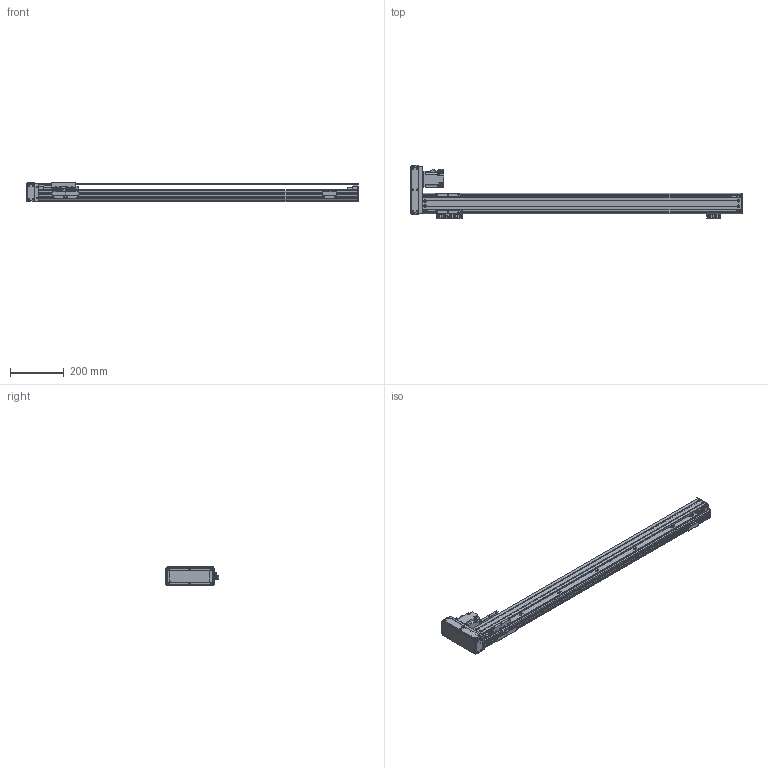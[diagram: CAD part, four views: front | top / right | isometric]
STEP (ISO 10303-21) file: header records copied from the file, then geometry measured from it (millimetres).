
FILE_DESCRIPTION(/* description */ (''),/* implementation_level */ '2;1');
FILE_NAME(/* name */ '\\192.168.0.160\disk1\HAN SHIN Master\B-설계부문\C-표준\B-2024년\BC02-표준도면\+로봇 개선표준도면\홈페이지 표준 도면\홈페이지 최종 작업 폴더\3D\HR\HR75\HR75병렬\좌병렬\HR75-L20-N1B-1000-R10.stp',/* time_stamp */ '2025-01-18T15:19:57+09:00',/* author */ ('user'),/* organization */ (''),/* preprocessor_version */ 'ST-DEVELOPER v18.1',/* originating_system */ 'Autodesk Inventor 2022',/* authorisation */ '');
FILE_SCHEMA (('CONFIG_CONTROL_DESIGN'));
Products named in the file (23): HG75-L20-N1B-0500-R10 - 간소화; BASE; HR75 FRONT BLOCK; HR75 REAR COVER-TENTION; HR75 TENSION REAR BLOCK; HG3UPCOV001; H 15F_BLOCK; HR65,75 SENSOR DOG; HG90STOPPER - 20L; HG90STOPPER - 27L; MOTOR PLATE-200W(MITSUBISHI); HC75-LR-MOTOR PLATE(200W)-사출; 화살표; HR75-LR-BELT COVER(200W); HR75-BELT COVER-COVER2; HR75-BELT COVER-COVER; hg-kr23_; HR65-BELT COVER-COVER3; M-5HL-4; HR75 W TABLE; LMKE1520 NUT; SENSOR BRK(EE-SX674A); EE_SX674A
Assembly tree (28 placements, depth 2):
  HG75-L20-N1B-0500-R10 - 간소화
    BASE
    HR75 FRONT BLOCK
    HR75 REAR COVER-TENTION
    SENSOR BRK(EE-SX674A)  x3
    EE_SX674A  x3
    HR75 TENSION REAR BLOCK
    HG3UPCOV001
    H 15F_BLOCK
    HR65,75 SENSOR DOG
    HG90STOPPER - 20L
    HG90STOPPER - 27L
    MOTOR PLATE-200W(MITSUBISHI)
    HC75-LR-MOTOR PLATE(200W)-사출
    화살표  x2
    HR75-LR-BELT COVER(200W)
    HR75-BELT COVER-COVER2
    HR75-BELT COVER-COVER
    HR65-BELT COVER-COVER3  x2
    hg-kr23_
    M-5HL-4
    HR75 W TABLE
    LMKE1520 NUT
Bounding box: 1239 x 199 x 73 mm (x, y, z)
Volume: 1964873.7 mm3; surface area: 895814.8 mm2
Topology: 28 solids, 28 shells, 2924 faces, 8051 edges, 5321 vertices
Faces by surface type: plane 2183, cylinder 626, cone 107, sphere 8
Full cylindrical faces by diameter (mm): 1.8 x1, 2 x4, 2.013 x2, 2.459 x16, 2.5 x2, 3 x8, 3.242 x46, 3.4 x20, 3.5 x6, 4.134 x48, 4.5 x22, 4.917 x5, 5 x31, 5.5 x32, 5.6 x8, 5.8 x4, 5.9 x8, 6 x4, 6.5 x1, 7 x1, 8 x1, 9.5 x28, 14 x1, 15 x3, 17 x1, 20 x1, 25 x2, 28 x1, 32 x2, 33.7 x1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
Entity records: 88377 total; most frequent: CARTESIAN_POINT 15952, ORIENTED_EDGE 14986, DIRECTION 14248, EDGE_CURVE 7493, LINE 6174, VECTOR 6174, VERTEX_POINT 4989, AXIS2_PLACEMENT_3D 4037
